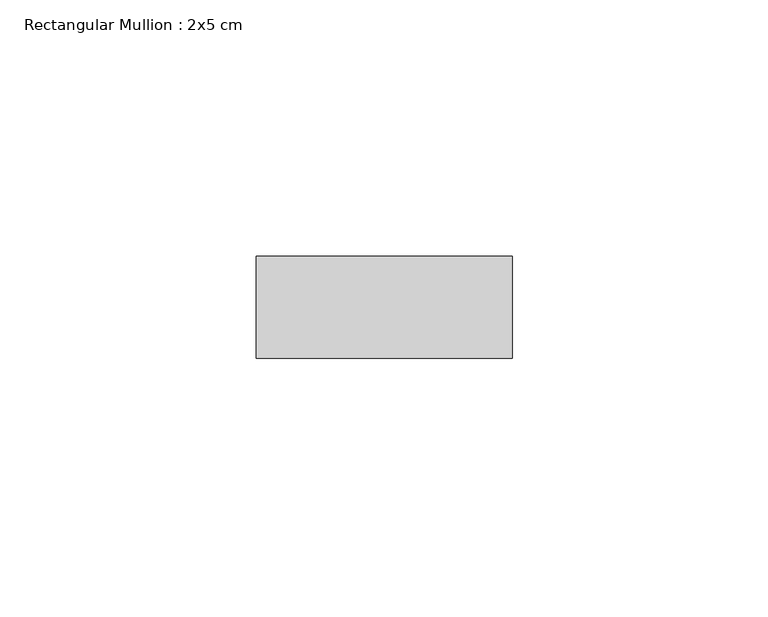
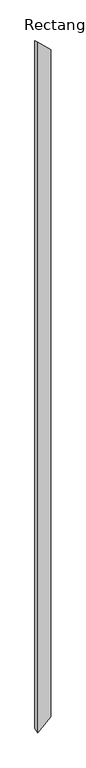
"""IFC4 building model written with IfcOpenShell, lengths in millimetres: member geometry, Rectangular Mullion : 2x5 cm."""

from ifc_helpers import new_model, si_unit, origin, place, context, project, spatial, faceted_brep, source, transform, mapped, element, save


def rectangular_mullion_2x5_cm_7033cc24(model_context):
    return source(origin(), model_context, "Body", "Brep", [
        faceted_brep([(0.0, 20.0, -5.7469577), (50.0, 20.0, -53.638272), (50.0, 20.0, -2762.5177977), (0.0, 20.0, -2810.409112), (0.0, 0.0, 0.0), (0.0, 0.0, -2816.1560697), (50.0, 0.0, -47.8913143), (50.0, 0.0, -2768.2647554)], [[[0, 1, 2, 3]], [[4, 0, 3, 5]], [[6, 4, 5, 7]], [[1, 6, 7, 2]], [[1, 0, 4, 6]], [[2, 7, 5, 3]]]),
    ])


if __name__ == "__main__":
    model = new_model("IFC4")
    model_context = context("Model", 3, world=origin())
    ifc_project = project(units=[si_unit("LENGTHUNIT", "METRE", prefix="MILLI")], contexts=[model_context])
    site = spatial("IfcSite", under=ifc_project)
    building = spatial("IfcBuilding", under=site)
    placement = place(None, origin())
    rectangular_mullion_2x5_cm_shape = rectangular_mullion_2x5_cm_7033cc24(model_context)
    element("IfcMember", 1, ObjectType="Rectangular Mullion : 2x5 cm", at=placement, inside=building, context=model_context, shape_type="MappedRepresentation", body=[
        mapped(rectangular_mullion_2x5_cm_shape, transform((0.0, 0.0, 0.0), x_axis=(1.0, 0.0, 0.0), y_axis=(0.0, 1.0, 0.0), z_axis=(0.0, 0.0, 1.0))),
    ])
    save(model, "model.ifc")
